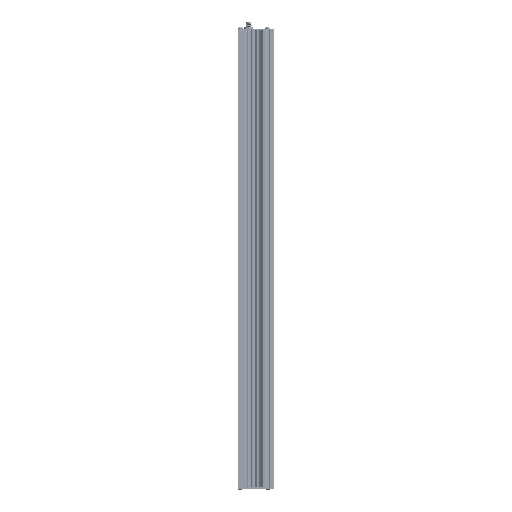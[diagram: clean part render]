
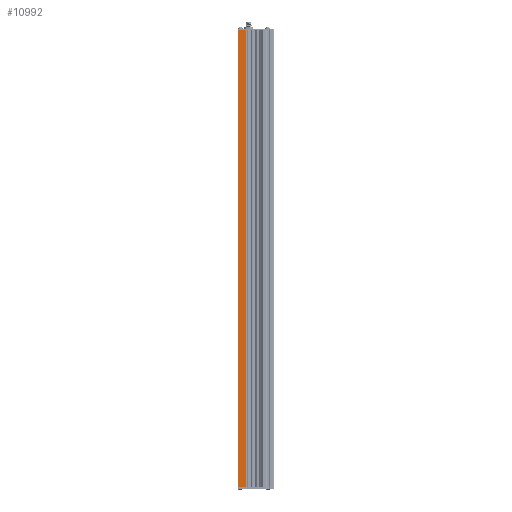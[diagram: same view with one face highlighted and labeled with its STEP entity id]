
A CAD part, left-side view. The second image highlights one B-rep face of the part: STEP entity #10992.
In plain terms, the highlighted planar face has unit normal (-1, 0, 0).
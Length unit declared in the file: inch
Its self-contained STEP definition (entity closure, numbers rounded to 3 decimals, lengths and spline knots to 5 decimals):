
#1097 = ORIENTED_EDGE ( 'NONE', *, *, #10826, .F. ) ;
#4459 = CARTESIAN_POINT ( 'NONE',  ( -1.76811, 1.342, -17.75 ) ) ;
#6475 = DIRECTION ( 'NONE',  ( 0., 0., -1. ) ) ;
#8742 = LINE ( 'NONE', #32383, #23035 ) ;
#9894 = PLANE ( 'NONE',  #31737 ) ;
#10815 = DIRECTION ( 'NONE',  ( 1., 0., 0. ) ) ;
#10826 = EDGE_CURVE ( 'NONE', #13155, #15791, #8742, .T. ) ;
#10992 = ADVANCED_FACE ( 'NONE', ( #13896 ), #9894, .F. ) ;
#13155 = VERTEX_POINT ( 'NONE', #18525 ) ;
#13896 = FACE_OUTER_BOUND ( 'NONE', #28540, .T. ) ;
#14074 = ORIENTED_EDGE ( 'NONE', *, *, #30653, .T. ) ;
#14678 = VECTOR ( 'NONE', #27598, 39.37008 ) ;
#15791 = VERTEX_POINT ( 'NONE', #27195 ) ;
#16598 = CARTESIAN_POINT ( 'NONE',  ( -1.76811, 0.75971, -17.75 ) ) ;
#16688 = VECTOR ( 'NONE', #21043, 39.37008 ) ;
#18525 = CARTESIAN_POINT ( 'NONE',  ( -1.76811, 1.342, 17.75 ) ) ;
#18708 = LINE ( 'NONE', #30507, #14678 ) ;
#21043 = DIRECTION ( 'NONE',  ( 0., -1., 0. ) ) ;
#22631 = CARTESIAN_POINT ( 'NONE',  ( -1.76811, 0.75971, 17.75 ) ) ;
#23035 = VECTOR ( 'NONE', #29845, 39.37008 ) ;
#23272 = VERTEX_POINT ( 'NONE', #4459 ) ;
#23750 = LINE ( 'NONE', #35743, #16688 ) ;
#25346 = VECTOR ( 'NONE', #6475, 39.37008 ) ;
#25717 = CARTESIAN_POINT ( 'NONE',  ( -1.76811, 1.342, 17.75 ) ) ;
#27195 = CARTESIAN_POINT ( 'NONE',  ( -1.76811, 0.75971, 17.75 ) ) ;
#27598 = DIRECTION ( 'NONE',  ( 0., 0., -1. ) ) ;
#27875 = ORIENTED_EDGE ( 'NONE', *, *, #34683, .T. ) ;
#28428 = LINE ( 'NONE', #22631, #25346 ) ;
#28540 = EDGE_LOOP ( 'NONE', ( #27875, #30933, #1097, #14074 ) ) ;
#29845 = DIRECTION ( 'NONE',  ( 0., -1., 0. ) ) ;
#30507 = CARTESIAN_POINT ( 'NONE',  ( -1.76811, 1.342, 17.75 ) ) ;
#30653 = EDGE_CURVE ( 'NONE', #13155, #23272, #18708, .T. ) ;
#30933 = ORIENTED_EDGE ( 'NONE', *, *, #32966, .F. ) ;
#31737 = AXIS2_PLACEMENT_3D ( 'NONE', #25717, #10815, #33534 ) ;
#32383 = CARTESIAN_POINT ( 'NONE',  ( -1.76811, 1.342, 17.75 ) ) ;
#32966 = EDGE_CURVE ( 'NONE', #15791, #34298, #28428, .T. ) ;
#33534 = DIRECTION ( 'NONE',  ( 0., 1., 0. ) ) ;
#34298 = VERTEX_POINT ( 'NONE', #16598 ) ;
#34683 = EDGE_CURVE ( 'NONE', #23272, #34298, #23750, .T. ) ;
#35743 = CARTESIAN_POINT ( 'NONE',  ( -1.76811, 1.342, -17.75 ) ) ;
